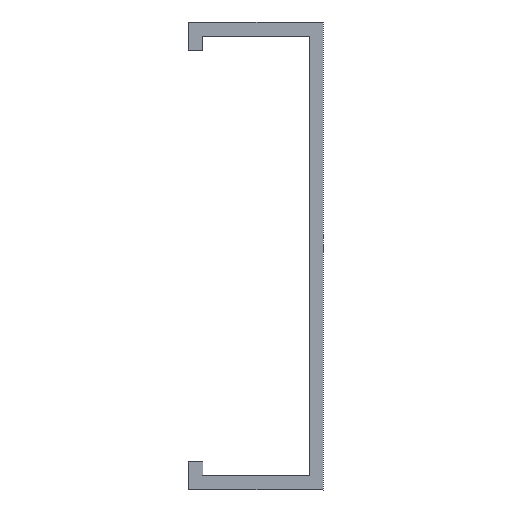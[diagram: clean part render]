
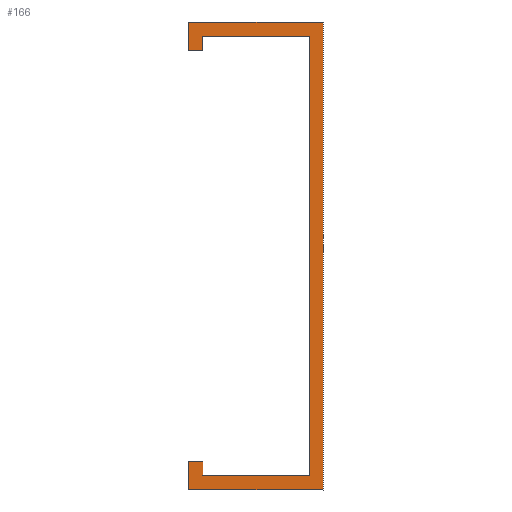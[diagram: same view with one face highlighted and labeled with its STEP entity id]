
A CAD part, left-side view. The second image highlights one B-rep face of the part: STEP entity #166.
In plain terms, the highlighted planar face has unit normal (-1, 0, 0).
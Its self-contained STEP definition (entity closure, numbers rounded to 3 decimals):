
#166=ADVANCED_FACE('',(#342),#343,.F.);
#342=FACE_OUTER_BOUND('',#521,.T.);
#343=PLANE('',#522);
#521=EDGE_LOOP('',(#956,#957,#958,#959,#960,#961,#962,#963,#964,#965,#966,#967,#968,#969,#970,#971));
#522=AXIS2_PLACEMENT_3D('',#972,#973,#974);
#956=ORIENTED_EDGE('',*,*,#1243,.T.);
#957=ORIENTED_EDGE('',*,*,#1244,.T.);
#958=ORIENTED_EDGE('',*,*,#1245,.T.);
#959=ORIENTED_EDGE('',*,*,#1246,.T.);
#960=ORIENTED_EDGE('',*,*,#1247,.T.);
#961=ORIENTED_EDGE('',*,*,#1248,.T.);
#962=ORIENTED_EDGE('',*,*,#1249,.T.);
#963=ORIENTED_EDGE('',*,*,#1250,.T.);
#964=ORIENTED_EDGE('',*,*,#1131,.T.);
#965=ORIENTED_EDGE('',*,*,#1184,.T.);
#966=ORIENTED_EDGE('',*,*,#1173,.T.);
#967=ORIENTED_EDGE('',*,*,#1187,.F.);
#968=ORIENTED_EDGE('',*,*,#1197,.T.);
#969=ORIENTED_EDGE('',*,*,#1194,.T.);
#970=ORIENTED_EDGE('',*,*,#1251,.T.);
#971=ORIENTED_EDGE('',*,*,#1252,.T.);
#972=CARTESIAN_POINT('',(0.0,-12.134,-26.482));
#973=DIRECTION('',(1.0,0.0,0.0));
#974=DIRECTION('',(0.0,0.0,-1.0));
#1131=EDGE_CURVE('',#1361,#1359,#1362,.T.);
#1173=EDGE_CURVE('',#1431,#1429,#1432,.T.);
#1184=EDGE_CURVE('',#1359,#1431,#1445,.T.);
#1187=EDGE_CURVE('',#1447,#1429,#1450,.T.);
#1194=EDGE_CURVE('',#1460,#1458,#1461,.T.);
#1197=EDGE_CURVE('',#1447,#1460,#1464,.T.);
#1243=EDGE_CURVE('',#1527,#1528,#1529,.T.);
#1244=EDGE_CURVE('',#1528,#1530,#1531,.T.);
#1245=EDGE_CURVE('',#1530,#1532,#1533,.T.);
#1246=EDGE_CURVE('',#1532,#1534,#1535,.T.);
#1247=EDGE_CURVE('',#1534,#1536,#1537,.T.);
#1248=EDGE_CURVE('',#1536,#1538,#1539,.T.);
#1249=EDGE_CURVE('',#1538,#1540,#1541,.T.);
#1250=EDGE_CURVE('',#1540,#1361,#1542,.T.);
#1251=EDGE_CURVE('',#1458,#1543,#1544,.T.);
#1252=EDGE_CURVE('',#1543,#1527,#1545,.T.);
#1359=VERTEX_POINT('',#1689);
#1361=VERTEX_POINT('',#1691);
#1362=LINE('',#1692,#1693);
#1429=VERTEX_POINT('',#1779);
#1431=VERTEX_POINT('',#1781);
#1432=LINE('',#1782,#1783);
#1445=LINE('',#1799,#1800);
#1447=VERTEX_POINT('',#1802);
#1450=LINE('',#1805,#1806);
#1458=VERTEX_POINT('',#1818);
#1460=VERTEX_POINT('',#1821);
#1461=LINE('',#1822,#1823);
#1464=LINE('',#1827,#1828);
#1527=VERTEX_POINT('',#1908);
#1528=VERTEX_POINT('',#1909);
#1529=LINE('',#1910,#1911);
#1530=VERTEX_POINT('',#1912);
#1531=LINE('',#1913,#1914);
#1532=VERTEX_POINT('',#1915);
#1533=LINE('',#1916,#1917);
#1534=VERTEX_POINT('',#1918);
#1535=LINE('',#1919,#1920);
#1536=VERTEX_POINT('',#1921);
#1537=LINE('',#1922,#1923);
#1538=VERTEX_POINT('',#1924);
#1539=LINE('',#1925,#1926);
#1540=VERTEX_POINT('',#1927);
#1541=LINE('',#1928,#1929);
#1542=LINE('',#1930,#1931);
#1543=VERTEX_POINT('',#1932);
#1544=LINE('',#1933,#1934);
#1545=LINE('',#1935,#1936);
#1689=CARTESIAN_POINT('',(0.,-1.005,-32.));
#1691=CARTESIAN_POINT('',(0.0,-8.5,-32.));
#1692=CARTESIAN_POINT('',(0.0,-14.5,-32.));
#1693=VECTOR('',#2051,1.0);
#1779=CARTESIAN_POINT('',(0.,-1.003,-31.995));
#1781=CARTESIAN_POINT('',(0.,-1.005,-31.995));
#1782=CARTESIAN_POINT('',(0.,-1.005,-31.995));
#1783=VECTOR('',#2116,1.0);
#1799=CARTESIAN_POINT('',(0.,-1.005,-32.));
#1800=VECTOR('',#2129,1.0);
#1802=CARTESIAN_POINT('',(0.,-1.003,-32.));
#1805=CARTESIAN_POINT('',(0.,-1.003,-32.));
#1806=VECTOR('',#2133,1.0);
#1818=CARTESIAN_POINT('',(0.0,-1.0,-31.));
#1821=CARTESIAN_POINT('',(0.0,-1.0,-32.));
#1822=CARTESIAN_POINT('',(0.0,-1.0,-32.));
#1823=VECTOR('',#2139,1.0);
#1827=CARTESIAN_POINT('',(0.0,-14.5,-32.));
#1828=VECTOR('',#2141,1.0);
#1908=CARTESIAN_POINT('',(0.0,0.0,-33.));
#1909=CARTESIAN_POINT('',(0.0,-9.5,-33.0));
#1910=CARTESIAN_POINT('',(0.0,-8.442,-33.));
#1911=VECTOR('',#2195,1.0);
#1912=CARTESIAN_POINT('',(0.0,-9.5,0.0));
#1913=CARTESIAN_POINT('',(0.0,-9.5,-61.0));
#1914=VECTOR('',#2196,1.0);
#1915=CARTESIAN_POINT('',(0.0,0.0,0.0));
#1916=CARTESIAN_POINT('',(0.0,-15.5,0.0));
#1917=VECTOR('',#2197,1.0);
#1918=CARTESIAN_POINT('',(0.0,0.0,-2.0));
#1919=CARTESIAN_POINT('',(0.0,0.0,0.0));
#1920=VECTOR('',#2198,1.0);
#1921=CARTESIAN_POINT('',(0.0,-1.0,-2.0));
#1922=CARTESIAN_POINT('',(0.0,0.0,-2.0));
#1923=VECTOR('',#2199,1.0);
#1924=CARTESIAN_POINT('',(0.0,-1.0,-1.0));
#1925=CARTESIAN_POINT('',(0.0,-1.0,-2.0));
#1926=VECTOR('',#2200,1.0);
#1927=CARTESIAN_POINT('',(0.0,-8.5,-1.0));
#1928=CARTESIAN_POINT('',(0.0,-1.0,-1.0));
#1929=VECTOR('',#2201,1.0);
#1930=CARTESIAN_POINT('',(0.0,-8.5,-1.0));
#1931=VECTOR('',#2202,1.0);
#1932=CARTESIAN_POINT('',(0.0,0.0,-31.));
#1933=CARTESIAN_POINT('',(0.0,-1.0,-31.));
#1934=VECTOR('',#2203,1.0);
#1935=CARTESIAN_POINT('',(0.0,0.0,-31.));
#1936=VECTOR('',#2204,1.0);
#2051=DIRECTION('',(0.0,1.0,0.0));
#2116=DIRECTION('',(0.0,1.0,0.));
#2129=DIRECTION('',(0.0,0.,1.0));
#2133=DIRECTION('',(0.0,0.,1.0));
#2139=DIRECTION('',(0.0,0.0,1.0));
#2141=DIRECTION('',(0.0,1.0,0.0));
#2195=DIRECTION('',(0.0,-1.0,0.0));
#2196=DIRECTION('',(0.0,0.0,1.0));
#2197=DIRECTION('',(0.0,1.0,0.0));
#2198=DIRECTION('',(0.0,0.0,-1.0));
#2199=DIRECTION('',(0.0,-1.0,0.0));
#2200=DIRECTION('',(0.0,0.0,1.0));
#2201=DIRECTION('',(0.0,-1.0,0.0));
#2202=DIRECTION('',(0.0,0.0,-1.0));
#2203=DIRECTION('',(0.0,1.0,0.0));
#2204=DIRECTION('',(0.0,0.0,-1.0));
